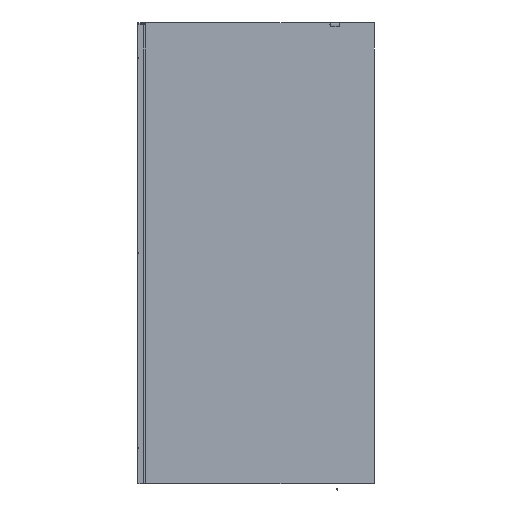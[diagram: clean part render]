
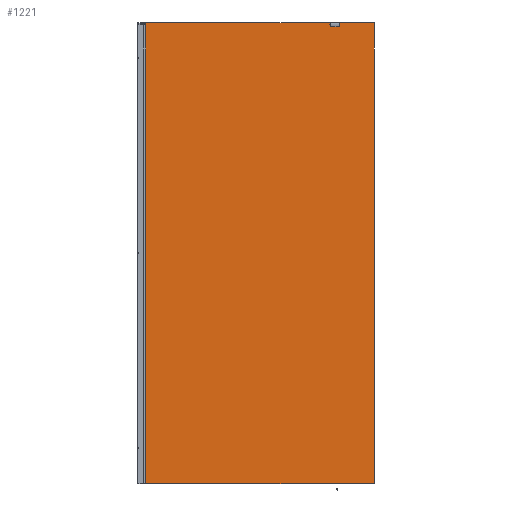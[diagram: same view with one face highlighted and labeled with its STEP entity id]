
A CAD part, front view. The second image highlights one B-rep face of the part: STEP entity #1221.
In plain terms, the highlighted planar face has unit normal (0, -1, 0) as drawn and (0, 0, 1) by its records, which use the part's own axes.
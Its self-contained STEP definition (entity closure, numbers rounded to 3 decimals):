
#1094=DIRECTION('',(1.,0.,0.));
#1095=VECTOR('',#1094,975.);
#1096=CARTESIAN_POINT('',(-437.5,-975.,8.));
#1097=LINE('',#1096,#1095);
#1102=DIRECTION('',(0.,-1.,0.));
#1103=VECTOR('',#1102,1950.);
#1104=CARTESIAN_POINT('',(-437.5,975.,8.));
#1105=LINE('',#1104,#1103);
#1110=DIRECTION('',(-1.,0.,0.));
#1111=VECTOR('',#1110,975.);
#1112=CARTESIAN_POINT('',(537.5,975.,8.));
#1113=LINE('',#1112,#1111);
#1118=DIRECTION('',(0.,1.,0.));
#1119=VECTOR('',#1118,1950.);
#1120=CARTESIAN_POINT('',(537.5,-975.,8.));
#1121=LINE('',#1120,#1119);
#1126=CARTESIAN_POINT('',(-437.5,-975.,8.));
#1127=VERTEX_POINT('',#1126);
#1128=CARTESIAN_POINT('',(-437.5,975.,8.));
#1129=VERTEX_POINT('',#1128);
#1134=CARTESIAN_POINT('',(537.5,-975.,8.));
#1135=VERTEX_POINT('',#1134);
#1136=CARTESIAN_POINT('',(537.5,975.,8.));
#1137=VERTEX_POINT('',#1136);
#1210=CARTESIAN_POINT('',(0.,0.,8.));
#1211=DIRECTION('',(0.,0.,1.));
#1212=DIRECTION('',(1.,0.,0.));
#1213=AXIS2_PLACEMENT_3D('',#1210,#1211,#1212);
#1214=PLANE('',#1213);
#1215=ORIENTED_EDGE('',*,*,#1162,.F.);
#1216=ORIENTED_EDGE('',*,*,#1177,.F.);
#1217=ORIENTED_EDGE('',*,*,#1191,.F.);
#1218=ORIENTED_EDGE('',*,*,#1204,.F.);
#1219=EDGE_LOOP('',(#1215,#1216,#1217,#1218));
#1220=FACE_OUTER_BOUND('',#1219,.F.);
#1221=ADVANCED_FACE('',(#1220),#1214,.T.);
#1162=EDGE_CURVE('',#1127,#1135,#1097,.T.);
#1177=EDGE_CURVE('',#1129,#1127,#1105,.T.);
#1191=EDGE_CURVE('',#1137,#1129,#1113,.T.);
#1204=EDGE_CURVE('',#1135,#1137,#1121,.T.);
